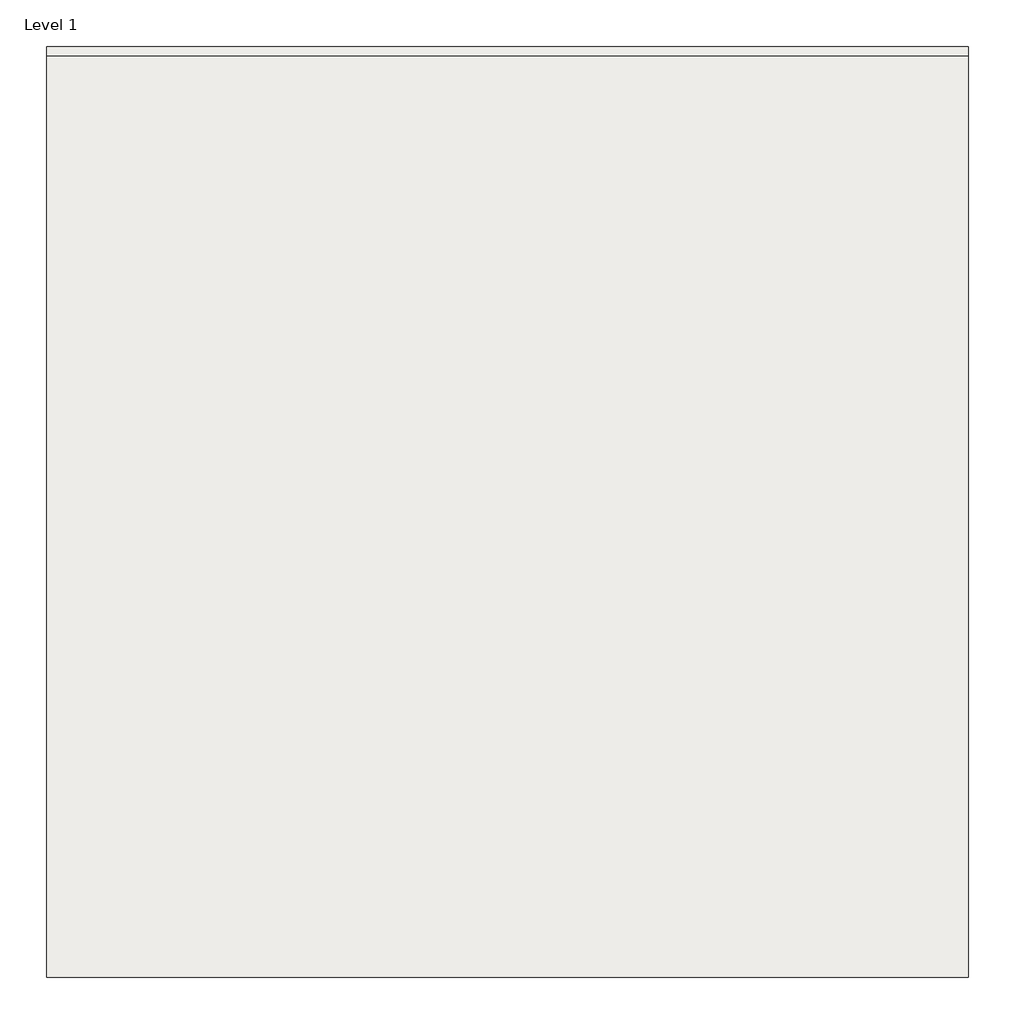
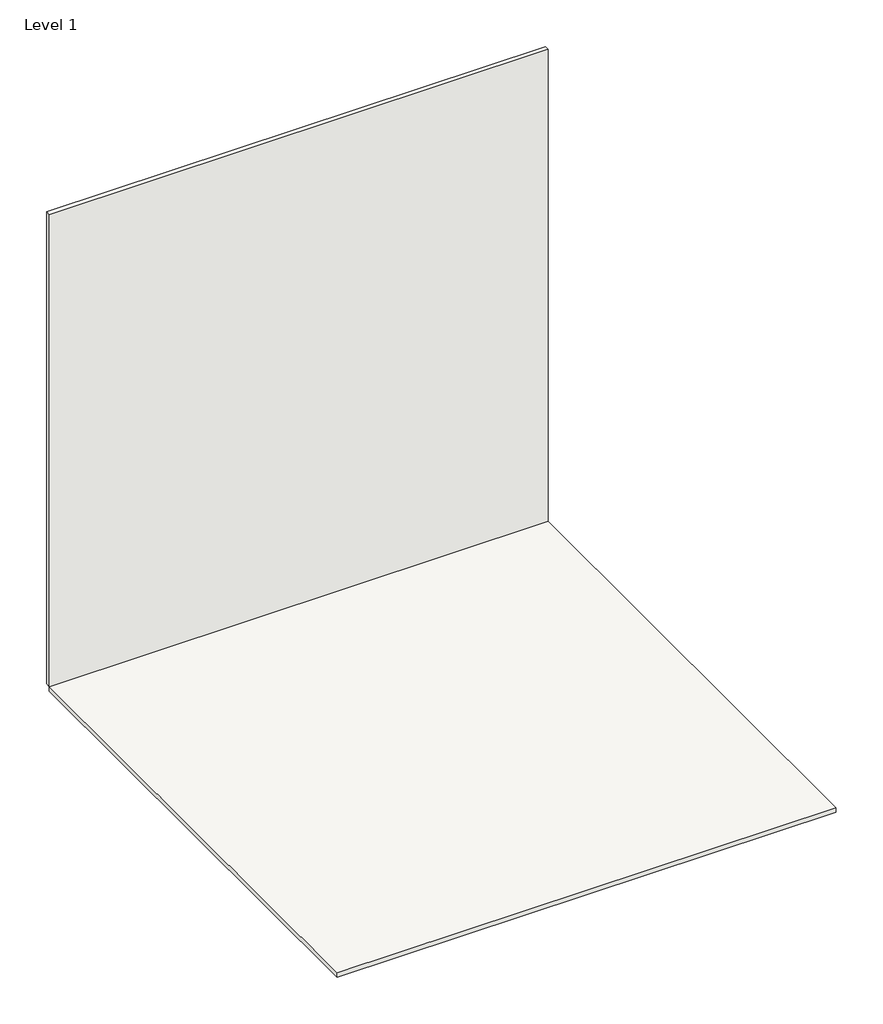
# One storey: 2 coverings.
"""IFC4 building model written with IfcOpenShell, lengths in millimetres."""

import ifcopenshell
import ifcopenshell.guid

model = None  # the IFC model being written
_history = None  # IfcOwnerHistory: only IFC2X3 demands one
_inside = {}  # id of a spatial element -> (the spatial element, [elements in it])
_under = {}  # id of a project, library or spatial element -> (it, [spatial elements below it])
_declared = {}  # id of a project -> (the project, [libraries it declares])
_typed = {}  # id of a type object -> (the type object, [elements of that type])
_made_of = {}  # id of a material, layer set ... -> (it, [elements and type objects made of it])


def new_model(schema):
    """Start an empty IFC model of exactly this schema.

    Asked for "IFC4X3", IfcOpenShell would pick the latest addendum, in which some entities
    have other attributes; the version numbers below select the first issue.
    IFC2X3 requires an IfcOwnerHistory on every rooted entity: one is made here for all.
    """
    global model, _history
    if schema == "IFC4X3":
        model = ifcopenshell.file(schema_version=(4, 3, 0, 0))
    else:
        model = ifcopenshell.file(schema=schema)
    _inside.clear()
    _under.clear()
    _declared.clear()
    _typed.clear()
    _made_of.clear()
    _history = None
    if model.schema == "IFC2X3":
        org = make("IfcOrganization", Name="unknown")
        user = make(
            "IfcPersonAndOrganization",
            ThePerson=make("IfcPerson", FamilyName="unknown"),
            TheOrganization=org,
        )
        app = make(
            "IfcApplication",
            ApplicationDeveloper=org,
            Version="unknown",
            ApplicationFullName="unknown",
            ApplicationIdentifier="unknown",
        )
        _history = make(
            "IfcOwnerHistory",
            OwningUser=user,
            OwningApplication=app,
            ChangeAction="ADDED",
            CreationDate=0,
        )
    return model


def make(cls, **values):
    """One entity of the class cls with the attributes given. An attribute that is None is left unset."""
    return model.create_entity(
        cls, **{name: value for name, value in values.items() if value is not None}
    )


def rooted(cls, **values):
    """An entity with a GlobalId (a new one), such as an element, a storey or a relation."""
    return make(cls, GlobalId=ifcopenshell.guid.new(), OwnerHistory=_history, **values)


def si_unit(unit_type, name, prefix=None):
    """IfcSIUnit, for example si_unit("LENGTHUNIT", "METRE", prefix="MILLI")."""
    return make("IfcSIUnit", UnitType=unit_type, Prefix=prefix, Name=name)


def assignment(units):
    """IfcUnitAssignment: the units of a project."""
    return None if units is None else make("IfcUnitAssignment", Units=units)


def point(xyz):
    """IfcCartesianPoint."""
    return None if xyz is None else make("IfcCartesianPoint", Coordinates=xyz)


def direction(xyz):
    """IfcDirection."""
    return None if xyz is None else make("IfcDirection", DirectionRatios=xyz)


def frame(location, z_axis=None, x_axis=None):
    """IfcAxis2Placement3D, a coordinate frame: its origin and axes. An axis left out is left unset."""
    return make(
        "IfcAxis2Placement3D",
        Location=point(location),
        Axis=direction(z_axis),
        RefDirection=direction(x_axis),
    )


def origin():
    """The frame at (0, 0, 0) with its axes left unset."""
    return frame((0.0, 0.0, 0.0))


def origin_with_axes():
    """The frame at (0, 0, 0) with the z axis (0, 0, 1) and the x axis (1, 0, 0) written out."""
    return frame((0.0, 0.0, 0.0), z_axis=(0.0, 0.0, 1.0), x_axis=(1.0, 0.0, 0.0))


def place(relative_to, where):
    """IfcLocalPlacement: puts the frame where relative to a parent placement (None: the world)."""
    return make(
        "IfcLocalPlacement", PlacementRelTo=relative_to, RelativePlacement=where
    )


def context(
    kind, dimensions, precision=None, world=None, true_north=None, identifier=None
):
    """IfcGeometricRepresentationContext, for example the 3D "Model" context."""
    return make(
        "IfcGeometricRepresentationContext",
        ContextIdentifier=identifier,
        ContextType=kind,
        CoordinateSpaceDimension=dimensions,
        Precision=precision,
        WorldCoordinateSystem=world,
        TrueNorth=true_north,
    )


def project(units=None, contexts=None):
    """IfcProject with its units and contexts."""
    return rooted(
        "IfcProject",
        Name="project",
        RepresentationContexts=contexts,
        UnitsInContext=assignment(units),
    )


def spatial(cls, under=None, at=None, **own):
    """A site, building, storey or space (cls), placed at a placement, below another one or the project."""
    s = rooted(cls, ObjectPlacement=at, **own)
    if under is not None:
        _under.setdefault(under.id(), (under, []))[1].append(s)
    return s


def polyline(points):
    """IfcPolyline through the points."""
    return make("IfcPolyline", Points=[point(p) for p in points])


def outline(outer, holes=None, kind="AREA"):
    """IfcArbitraryClosedProfileDef: a profile drawn as a closed curve; with holes, ...WithVoids."""
    if holes is None:
        return make("IfcArbitraryClosedProfileDef", ProfileType=kind, OuterCurve=outer)
    return make(
        "IfcArbitraryProfileDefWithVoids",
        ProfileType=kind,
        OuterCurve=outer,
        InnerCurves=holes,
    )


def extrude(swept, where, along, depth):
    """IfcExtrudedAreaSolid: the profile swept, set in the frame where, extruded along a direction by depth."""
    return make(
        "IfcExtrudedAreaSolid",
        SweptArea=swept,
        Position=where,
        ExtrudedDirection=direction(along),
        Depth=depth,
    )


def shape(context_of_items, identifier, shape_type, items):
    """IfcShapeRepresentation: the items that make up one representation, for example the "Body"."""
    return make(
        "IfcShapeRepresentation",
        ContextOfItems=context_of_items,
        RepresentationIdentifier=identifier,
        RepresentationType=shape_type,
        Items=items,
    )


def made_of(thing, what):
    """Note that an element or type object is made of a material, layer set ...; save() writes the relation."""
    if what is not None:
        _made_of.setdefault(what.id(), (what, []))[1].append(thing)
    return thing


def element(
    cls,
    number,
    at=None,
    inside=None,
    cuts=None,
    type_object=None,
    material=None,
    context=None,
    identifier="Body",
    shape_type=None,
    held_by="IfcProductDefinitionShape",
    body=None,
    shapes=None,
    **own,
):
    """One element of the class cls, such as IfcWall. Its Tag is "e" and its number.

    at: its placement. inside: the storey or other place that contains it. cuts: it is an
    opening in that element (IfcRelVoidsElement). A single representation is given by context,
    identifier, shape_type and body (its items); several are given by shapes. held_by: the class
    of the entity that holds the representations. save() writes the other relations.
    """
    e = rooted(cls, Tag="e%d" % number, ObjectPlacement=at, **own)
    if body is not None:
        shapes = [shape(context, identifier, shape_type, body)]
    if shapes is not None:
        e.Representation = make(held_by, Representations=shapes)
    if inside is not None:
        _inside.setdefault(inside.id(), (inside, []))[1].append(e)
    if cuts is not None:
        rooted(
            "IfcRelVoidsElement", RelatingBuildingElement=cuts, RelatedOpeningElement=e
        )
    if type_object is not None:
        _typed.setdefault(type_object.id(), (type_object, []))[1].append(e)
    return made_of(e, material)


def aggregate(whole, parts):
    """IfcRelAggregates: a whole, such as a stair, and the parts it consists of."""
    return rooted("IfcRelAggregates", RelatingObject=whole, RelatedObjects=parts)


def save(model, path):
    """Write the relations noted so far, then the file.

    IfcRelAggregates (storeys below a building ...), IfcRelContainedInSpatialStructure (elements
    in a storey), IfcRelDefinesByType, IfcRelAssociatesMaterial and IfcRelDeclares: one each for
    every whole, place, type object, material and project.
    """
    for whole, parts in _under.values():
        aggregate(whole, parts)
    for where, things in _inside.values():
        rooted(
            "IfcRelContainedInSpatialStructure",
            RelatedElements=things,
            RelatingStructure=where,
        )
    for kind, things in _typed.values():
        rooted("IfcRelDefinesByType", RelatedObjects=things, RelatingType=kind)
    for what, things in _made_of.values():
        rooted("IfcRelAssociatesMaterial", RelatedObjects=things, RelatingMaterial=what)
    for by, libraries in _declared.values():
        rooted("IfcRelDeclares", RelatingContext=by, RelatedDefinitions=libraries)
    model.write(path)


model = new_model("IFC4")

# Units and contexts
model_context = context("Model", 3, world=origin())
ifc_project = project(units=[si_unit("LENGTHUNIT", "METRE", prefix="MILLI")], contexts=[model_context])

# Site, building, storey
site = spatial("IfcSite", under=ifc_project)
building = spatial("IfcBuilding", under=site)
storey = spatial("IfcBuildingStorey", under=building, Name="Level 1", Elevation=0.0)

# Coverings
placement = place(None, origin())
element("IfcCovering", 1, ObjectType="REVIGRÉS-STATUARIO WHITE-PEAK ABSOLUT-29,5x29,5-MATT RECT-PEAK ABSOLUT", at=placement, inside=storey, context=model_context, shape_type="SweptSolid", body=[
    extrude(outline(polyline([(3898.642714, 3103.1757974), (2898.642714, 3103.1757974), (2898.642714, 3112.9757974), (3898.642714, 3112.9757974), (3898.642714, 3103.1757974)])), origin_with_axes(), (0.0, 0.0, 1.0), 1000.0),
])
element("IfcCovering", 2, ObjectType="REVIGRÉS-STATUARIO WHITE-PEAK ABSOLUT-29,5x29,5-MATT RECT-PEAK ABSOLUT", at=placement, inside=storey, context=model_context, shape_type="SweptSolid", body=[
    extrude(outline(polyline([(3898.642714, 3103.1757974), (3898.642714, 2103.8257974), (2898.642714, 2103.8257974), (2898.642714, 3103.1757974), (3898.642714, 3103.1757974)])), frame((0.0, 0.0, -9.8), z_axis=(0.0, 0.0, 1.0), x_axis=(1.0, 0.0, 0.0)), (0.0, 0.0, 1.0), 9.8),
])

save(model, "model.ifc")
